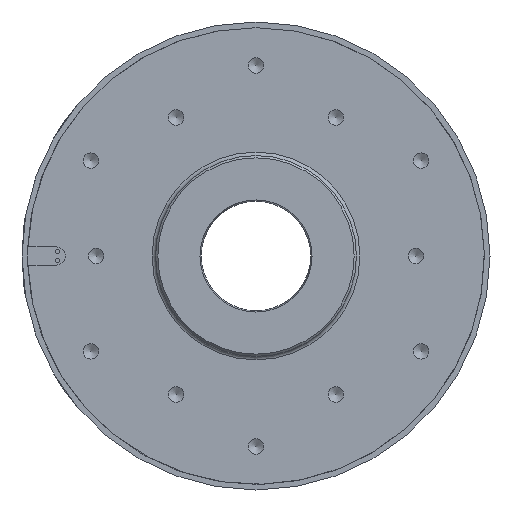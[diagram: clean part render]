
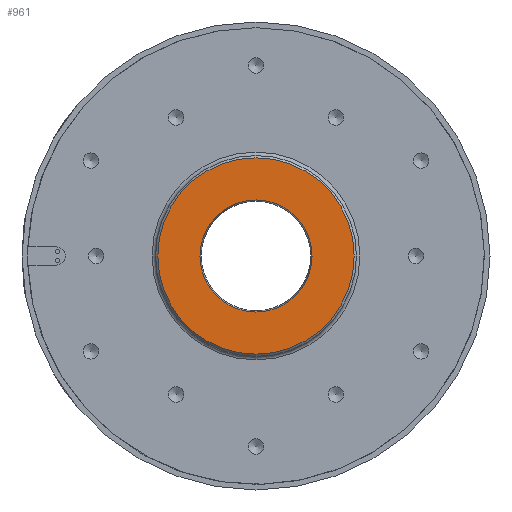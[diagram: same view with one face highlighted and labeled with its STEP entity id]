
A CAD part, left-side view. The second image highlights one B-rep face of the part: STEP entity #961.
In plain terms, the highlighted planar face has unit normal (-1, 0, 0).
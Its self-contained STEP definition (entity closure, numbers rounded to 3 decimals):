
#47 = EDGE_CURVE ( 'NONE', #1659, #1659, #1209, .T. ) ;
#72 = AXIS2_PLACEMENT_3D ( 'NONE', #119, #856, #1402 ) ;
#119 = CARTESIAN_POINT ( 'NONE',  ( 41.8, 43., 0. ) ) ;
#281 = CARTESIAN_POINT ( 'NONE',  ( 41.8, 0., 43. ) ) ;
#410 = AXIS2_PLACEMENT_3D ( 'NONE', #812, #1361, #764 ) ;
#459 = AXIS2_PLACEMENT_3D ( 'NONE', #1331, #1895, #1152 ) ;
#465 = FACE_BOUND ( 'NONE', #1680, .T. ) ;
#616 = EDGE_LOOP ( 'NONE', ( #1909 ) ) ;
#677 = PLANE ( 'NONE',  #72 ) ;
#764 = DIRECTION ( 'NONE',  ( 0., 0., 1. ) ) ;
#812 = CARTESIAN_POINT ( 'NONE',  ( 41.8, 0., 0. ) ) ;
#838 = EDGE_CURVE ( 'NONE', #1872, #1872, #1256, .T. ) ;
#856 = DIRECTION ( 'NONE',  ( 1., 0., 0. ) ) ;
#961 = ADVANCED_FACE ( 'NONE', ( #465, #1756 ), #677, .F. ) ;
#1037 = ORIENTED_EDGE ( 'NONE', *, *, #47, .F. ) ;
#1085 = CARTESIAN_POINT ( 'NONE',  ( 41.8, 0., 24.536 ) ) ;
#1152 = DIRECTION ( 'NONE',  ( 0., 0., 1. ) ) ;
#1209 = CIRCLE ( 'NONE', #410, 24.536 ) ;
#1256 = CIRCLE ( 'NONE', #459, 43. ) ;
#1331 = CARTESIAN_POINT ( 'NONE',  ( 41.8, 0., 0. ) ) ;
#1361 = DIRECTION ( 'NONE',  ( -1., 0., 0. ) ) ;
#1402 = DIRECTION ( 'NONE',  ( 0., 0., -1. ) ) ;
#1659 = VERTEX_POINT ( 'NONE', #1085 ) ;
#1680 = EDGE_LOOP ( 'NONE', ( #1037 ) ) ;
#1756 = FACE_OUTER_BOUND ( 'NONE', #616, .T. ) ;
#1872 = VERTEX_POINT ( 'NONE', #281 ) ;
#1895 = DIRECTION ( 'NONE',  ( -1., 0., 0. ) ) ;
#1909 = ORIENTED_EDGE ( 'NONE', *, *, #838, .T. ) ;
